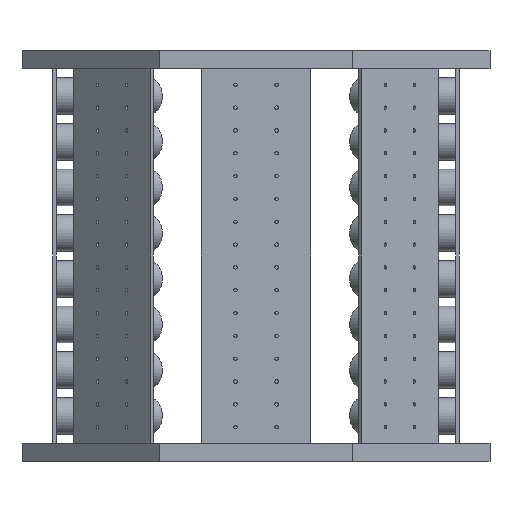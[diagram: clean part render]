
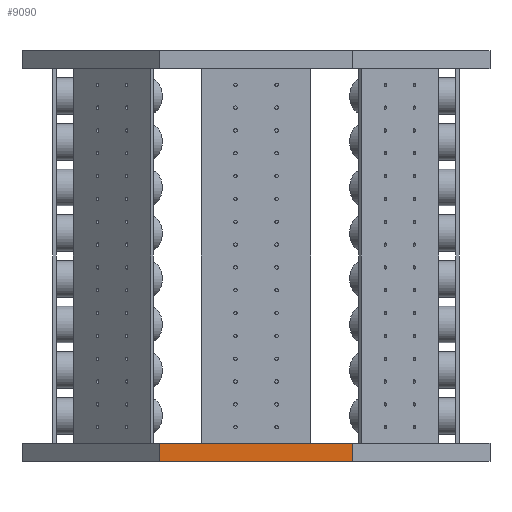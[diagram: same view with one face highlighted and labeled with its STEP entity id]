
A CAD part, front view. The second image highlights one B-rep face of the part: STEP entity #9090.
In plain terms, the highlighted planar face has unit normal (0, -1, 0).
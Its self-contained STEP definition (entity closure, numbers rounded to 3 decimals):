
#6650 = PLANE('',#6651);
#6651 = AXIS2_PLACEMENT_3D('',#6652,#6653,#6654);
#6652 = CARTESIAN_POINT('',(0.,0.,8.)
  );
#6653 = DIRECTION('',(0.,0.,1.));
#6654 = DIRECTION('',(1.,0.,-0.));
#6704 = PLANE('',#6705);
#6705 = AXIS2_PLACEMENT_3D('',#6706,#6707,#6708);
#6706 = CARTESIAN_POINT('',(0.,0.,0.)
  );
#6707 = DIRECTION('',(0.,0.,1.));
#6708 = DIRECTION('',(1.,0.,-0.));
#6737 = PLANE('',#6738);
#6738 = AXIS2_PLACEMENT_3D('',#6739,#6740,#6741);
#6739 = CARTESIAN_POINT('',(42.457,-102.5,0.));
#6740 = DIRECTION('',(-0.707,0.707,0.));
#6741 = DIRECTION('',(0.707,0.707,0.));
#6925 = VERTEX_POINT('',#6926);
#6926 = CARTESIAN_POINT('',(-42.457,-102.5,0.));
#6940 = PLANE('',#6941);
#6941 = AXIS2_PLACEMENT_3D('',#6942,#6943,#6944);
#6942 = CARTESIAN_POINT('',(-102.5,-42.457,0.));
#6943 = DIRECTION('',(0.707,0.707,-0.));
#6944 = DIRECTION('',(0.707,-0.707,0.));
#6952 = EDGE_CURVE('',#6925,#6953,#6955,.T.);
#6953 = VERTEX_POINT('',#6954);
#6954 = CARTESIAN_POINT('',(42.457,-102.5,0.));
#6955 = SURFACE_CURVE('',#6956,(#6960,#6967),.PCURVE_S1.);
#6956 = LINE('',#6957,#6958);
#6957 = CARTESIAN_POINT('',(-42.457,-102.5,0.));
#6958 = VECTOR('',#6959,1.);
#6959 = DIRECTION('',(1.,0.,0.));
#6960 = PCURVE('',#6704,#6961);
#6961 = DEFINITIONAL_REPRESENTATION('',(#6962),#6966);
#6962 = LINE('',#6963,#6964);
#6963 = CARTESIAN_POINT('',(-42.457,-102.5));
#6964 = VECTOR('',#6965,1.);
#6965 = DIRECTION('',(1.,0.));
#6966 = ( GEOMETRIC_REPRESENTATION_CONTEXT(2) 
PARAMETRIC_REPRESENTATION_CONTEXT() REPRESENTATION_CONTEXT('2D SPACE',''
  ) );
#6967 = PCURVE('',#6968,#6973);
#6968 = PLANE('',#6969);
#6969 = AXIS2_PLACEMENT_3D('',#6970,#6971,#6972);
#6970 = CARTESIAN_POINT('',(-42.457,-102.5,0.));
#6971 = DIRECTION('',(0.,1.,-0.));
#6972 = DIRECTION('',(1.,0.,0.));
#6973 = DEFINITIONAL_REPRESENTATION('',(#6974),#6978);
#6974 = LINE('',#6975,#6976);
#6975 = CARTESIAN_POINT('',(0.,0.));
#6976 = VECTOR('',#6977,1.);
#6977 = DIRECTION('',(1.,0.));
#6978 = ( GEOMETRIC_REPRESENTATION_CONTEXT(2) 
PARAMETRIC_REPRESENTATION_CONTEXT() REPRESENTATION_CONTEXT('2D SPACE',''
  ) );
#8112 = VERTEX_POINT('',#8113);
#8113 = CARTESIAN_POINT('',(-42.457,-102.5,8.));
#8134 = EDGE_CURVE('',#8112,#8135,#8137,.T.);
#8135 = VERTEX_POINT('',#8136);
#8136 = CARTESIAN_POINT('',(42.457,-102.5,8.));
#8137 = SURFACE_CURVE('',#8138,(#8142,#8149),.PCURVE_S1.);
#8138 = LINE('',#8139,#8140);
#8139 = CARTESIAN_POINT('',(-42.457,-102.5,8.));
#8140 = VECTOR('',#8141,1.);
#8141 = DIRECTION('',(1.,0.,0.));
#8142 = PCURVE('',#6650,#8143);
#8143 = DEFINITIONAL_REPRESENTATION('',(#8144),#8148);
#8144 = LINE('',#8145,#8146);
#8145 = CARTESIAN_POINT('',(-42.457,-102.5));
#8146 = VECTOR('',#8147,1.);
#8147 = DIRECTION('',(1.,0.));
#8148 = ( GEOMETRIC_REPRESENTATION_CONTEXT(2) 
PARAMETRIC_REPRESENTATION_CONTEXT() REPRESENTATION_CONTEXT('2D SPACE',''
  ) );
#8149 = PCURVE('',#6968,#8150);
#8150 = DEFINITIONAL_REPRESENTATION('',(#8151),#8155);
#8151 = LINE('',#8152,#8153);
#8152 = CARTESIAN_POINT('',(0.,-8.));
#8153 = VECTOR('',#8154,1.);
#8154 = DIRECTION('',(1.,0.));
#8155 = ( GEOMETRIC_REPRESENTATION_CONTEXT(2) 
PARAMETRIC_REPRESENTATION_CONTEXT() REPRESENTATION_CONTEXT('2D SPACE',''
  ) );
#9040 = EDGE_CURVE('',#6953,#8135,#9041,.T.);
#9041 = SURFACE_CURVE('',#9042,(#9046,#9053),.PCURVE_S1.);
#9042 = LINE('',#9043,#9044);
#9043 = CARTESIAN_POINT('',(42.457,-102.5,0.));
#9044 = VECTOR('',#9045,1.);
#9045 = DIRECTION('',(0.,0.,1.));
#9046 = PCURVE('',#6737,#9047);
#9047 = DEFINITIONAL_REPRESENTATION('',(#9048),#9052);
#9048 = LINE('',#9049,#9050);
#9049 = CARTESIAN_POINT('',(0.,0.));
#9050 = VECTOR('',#9051,1.);
#9051 = DIRECTION('',(0.,-1.));
#9052 = ( GEOMETRIC_REPRESENTATION_CONTEXT(2) 
PARAMETRIC_REPRESENTATION_CONTEXT() REPRESENTATION_CONTEXT('2D SPACE',''
  ) );
#9053 = PCURVE('',#6968,#9054);
#9054 = DEFINITIONAL_REPRESENTATION('',(#9055),#9059);
#9055 = LINE('',#9056,#9057);
#9056 = CARTESIAN_POINT('',(84.914,0.));
#9057 = VECTOR('',#9058,1.);
#9058 = DIRECTION('',(0.,-1.));
#9059 = ( GEOMETRIC_REPRESENTATION_CONTEXT(2) 
PARAMETRIC_REPRESENTATION_CONTEXT() REPRESENTATION_CONTEXT('2D SPACE',''
  ) );
#9090 = ADVANCED_FACE('',(#9091),#6968,.F.);
#9091 = FACE_BOUND('',#9092,.F.);
#9092 = EDGE_LOOP('',(#9093,#9114,#9115,#9116));
#9093 = ORIENTED_EDGE('',*,*,#9094,.T.);
#9094 = EDGE_CURVE('',#6925,#8112,#9095,.T.);
#9095 = SURFACE_CURVE('',#9096,(#9100,#9107),.PCURVE_S1.);
#9096 = LINE('',#9097,#9098);
#9097 = CARTESIAN_POINT('',(-42.457,-102.5,0.));
#9098 = VECTOR('',#9099,1.);
#9099 = DIRECTION('',(0.,0.,1.));
#9100 = PCURVE('',#6968,#9101);
#9101 = DEFINITIONAL_REPRESENTATION('',(#9102),#9106);
#9102 = LINE('',#9103,#9104);
#9103 = CARTESIAN_POINT('',(0.,0.));
#9104 = VECTOR('',#9105,1.);
#9105 = DIRECTION('',(0.,-1.));
#9106 = ( GEOMETRIC_REPRESENTATION_CONTEXT(2) 
PARAMETRIC_REPRESENTATION_CONTEXT() REPRESENTATION_CONTEXT('2D SPACE',''
  ) );
#9107 = PCURVE('',#6940,#9108);
#9108 = DEFINITIONAL_REPRESENTATION('',(#9109),#9113);
#9109 = LINE('',#9110,#9111);
#9110 = CARTESIAN_POINT('',(84.914,0.));
#9111 = VECTOR('',#9112,1.);
#9112 = DIRECTION('',(0.,-1.));
#9113 = ( GEOMETRIC_REPRESENTATION_CONTEXT(2) 
PARAMETRIC_REPRESENTATION_CONTEXT() REPRESENTATION_CONTEXT('2D SPACE',''
  ) );
#9114 = ORIENTED_EDGE('',*,*,#8134,.T.);
#9115 = ORIENTED_EDGE('',*,*,#9040,.F.);
#9116 = ORIENTED_EDGE('',*,*,#6952,.F.);
